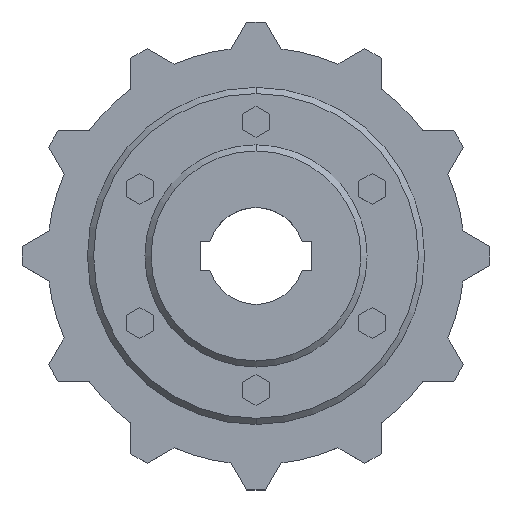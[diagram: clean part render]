
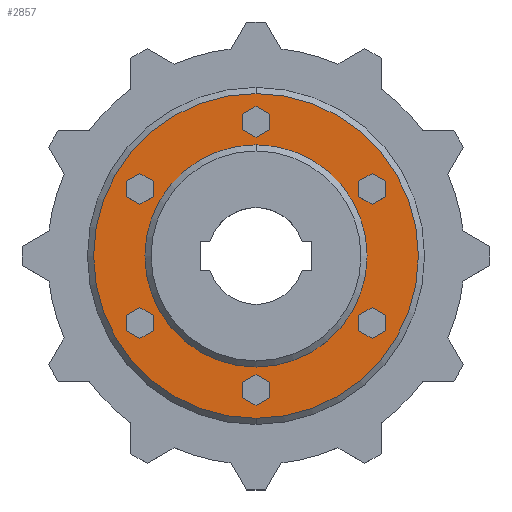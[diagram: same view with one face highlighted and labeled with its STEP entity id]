
A CAD part, top view. The second image highlights one B-rep face of the part: STEP entity #2857.
In plain terms, the highlighted planar face has unit normal (0, 0, 1) as drawn and (0, 1, 0) by its records, which use the part's own axes.
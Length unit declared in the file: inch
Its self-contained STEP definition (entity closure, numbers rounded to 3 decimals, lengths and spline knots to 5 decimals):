
#2353=CARTESIAN_POINT('',(0.,0.095,0.));
#2354=DIRECTION('',(0.,1.,0.));
#2355=DIRECTION('',(1.,0.,0.));
#2356=AXIS2_PLACEMENT_3D('',#2353,#2354,#2355);
#2363=CARTESIAN_POINT('',(0.,0.095,0.));
#2364=DIRECTION('',(0.,-1.,0.));
#2365=DIRECTION('',(1.,0.,0.));
#2366=AXIS2_PLACEMENT_3D('',#2363,#2364,#2365);
#2368=CARTESIAN_POINT('',(0.,0.095,0.));
#2369=DIRECTION('',(0.,-1.,0.));
#2370=DIRECTION('',(-1.,0.,0.));
#2371=AXIS2_PLACEMENT_3D('',#2368,#2369,#2370);
#2373=CARTESIAN_POINT('',(-2.188,0.095,0.));
#2374=DIRECTION('',(0.,-1.,0.));
#2375=DIRECTION('',(1.,0.,0.));
#2376=AXIS2_PLACEMENT_3D('',#2373,#2374,#2375);
#2378=CARTESIAN_POINT('',(-2.188,0.095,0.));
#2379=DIRECTION('',(0.,-1.,0.));
#2380=DIRECTION('',(-1.,0.,0.));
#2381=AXIS2_PLACEMENT_3D('',#2378,#2379,#2380);
#2383=CARTESIAN_POINT('',(-1.094,0.095,-1.89486));
#2384=DIRECTION('',(0.,-1.,0.));
#2385=DIRECTION('',(0.5,0.,0.866));
#2386=AXIS2_PLACEMENT_3D('',#2383,#2384,#2385);
#2388=CARTESIAN_POINT('',(-1.094,0.095,-1.89486));
#2389=DIRECTION('',(0.,-1.,0.));
#2390=DIRECTION('',(-0.5,0.,-0.866));
#2391=AXIS2_PLACEMENT_3D('',#2388,#2389,#2390);
#2393=CARTESIAN_POINT('',(1.094,0.095,-1.89486));
#2394=DIRECTION('',(0.,-1.,0.));
#2395=DIRECTION('',(-0.5,0.,0.866));
#2396=AXIS2_PLACEMENT_3D('',#2393,#2394,#2395);
#2398=CARTESIAN_POINT('',(1.094,0.095,-1.89486));
#2399=DIRECTION('',(0.,-1.,0.));
#2400=DIRECTION('',(0.5,0.,-0.866));
#2401=AXIS2_PLACEMENT_3D('',#2398,#2399,#2400);
#2403=CARTESIAN_POINT('',(2.188,0.095,0.));
#2404=DIRECTION('',(0.,-1.,0.));
#2405=DIRECTION('',(-1.,0.,0.));
#2406=AXIS2_PLACEMENT_3D('',#2403,#2404,#2405);
#2408=CARTESIAN_POINT('',(2.188,0.095,0.));
#2409=DIRECTION('',(0.,-1.,0.));
#2410=DIRECTION('',(1.,0.,0.));
#2411=AXIS2_PLACEMENT_3D('',#2408,#2409,#2410);
#2413=CARTESIAN_POINT('',(1.094,0.095,1.89486));
#2414=DIRECTION('',(0.,-1.,0.));
#2415=DIRECTION('',(-0.5,0.,-0.866));
#2416=AXIS2_PLACEMENT_3D('',#2413,#2414,#2415);
#2418=CARTESIAN_POINT('',(1.094,0.095,1.89486));
#2419=DIRECTION('',(0.,-1.,0.));
#2420=DIRECTION('',(0.5,0.,0.866));
#2421=AXIS2_PLACEMENT_3D('',#2418,#2419,#2420);
#2423=CARTESIAN_POINT('',(-1.094,0.095,1.89486));
#2424=DIRECTION('',(0.,-1.,0.));
#2425=DIRECTION('',(0.5,0.,-0.866));
#2426=AXIS2_PLACEMENT_3D('',#2423,#2424,#2425);
#2428=CARTESIAN_POINT('',(-1.094,0.095,1.89486));
#2429=DIRECTION('',(0.,-1.,0.));
#2430=DIRECTION('',(-0.5,0.,0.866));
#2431=AXIS2_PLACEMENT_3D('',#2428,#2429,#2430);
#2535=CARTESIAN_POINT('',(0.,0.095,0.));
#2536=DIRECTION('',(0.,1.,0.));
#2537=DIRECTION('',(-1.,0.,0.));
#2538=AXIS2_PLACEMENT_3D('',#2535,#2536,#2537);
#2609=CARTESIAN_POINT('',(1.813,0.095,0.));
#2610=CARTESIAN_POINT('',(-1.813,0.095,0.));
#2611=VERTEX_POINT('',#2609);
#2612=VERTEX_POINT('',#2610);
#2613=CARTESIAN_POINT('',(2.65,0.095,0.));
#2614=CARTESIAN_POINT('',(-2.65,0.095,0.));
#2615=VERTEX_POINT('',#2613);
#2616=VERTEX_POINT('',#2614);
#2625=CARTESIAN_POINT('',(-2.061,0.095,0.));
#2626=CARTESIAN_POINT('',(-2.315,0.095,0.));
#2627=VERTEX_POINT('',#2625);
#2628=VERTEX_POINT('',#2626);
#2657=CARTESIAN_POINT('',(-1.0305,0.095,-1.78488));
#2658=CARTESIAN_POINT('',(-1.1575,0.095,-2.00485));
#2659=VERTEX_POINT('',#2657);
#2660=VERTEX_POINT('',#2658);
#2661=CARTESIAN_POINT('',(1.0305,0.095,-1.78488));
#2662=CARTESIAN_POINT('',(1.1575,0.095,-2.00485));
#2663=VERTEX_POINT('',#2661);
#2664=VERTEX_POINT('',#2662);
#2665=CARTESIAN_POINT('',(2.061,0.095,0.));
#2666=CARTESIAN_POINT('',(2.315,0.095,0.));
#2667=VERTEX_POINT('',#2665);
#2668=VERTEX_POINT('',#2666);
#2669=CARTESIAN_POINT('',(1.0305,0.095,1.78488));
#2670=CARTESIAN_POINT('',(1.1575,0.095,2.00485));
#2671=VERTEX_POINT('',#2669);
#2672=VERTEX_POINT('',#2670);
#2673=CARTESIAN_POINT('',(-1.0305,0.095,1.78488));
#2674=CARTESIAN_POINT('',(-1.1575,0.095,2.00485));
#2675=VERTEX_POINT('',#2673);
#2676=VERTEX_POINT('',#2674);
#2805=CARTESIAN_POINT('',(0.,0.095,0.));
#2806=DIRECTION('',(0.,1.,0.));
#2807=DIRECTION('',(1.,0.,0.));
#2808=AXIS2_PLACEMENT_3D('',#2805,#2806,#2807);
#2809=PLANE('',#2808);
#2810=ORIENTED_EDGE('',*,*,#2795,.F.);
#2812=ORIENTED_EDGE('',*,*,#2811,.F.);
#2813=EDGE_LOOP('',(#2810,#2812));
#2814=FACE_OUTER_BOUND('',#2813,.F.);
#2816=ORIENTED_EDGE('',*,*,#2815,.F.);
#2818=ORIENTED_EDGE('',*,*,#2817,.F.);
#2819=EDGE_LOOP('',(#2816,#2818));
#2820=FACE_BOUND('',#2819,.F.);
#2822=ORIENTED_EDGE('',*,*,#2821,.F.);
#2824=ORIENTED_EDGE('',*,*,#2823,.F.);
#2825=EDGE_LOOP('',(#2822,#2824));
#2826=FACE_BOUND('',#2825,.F.);
#2828=ORIENTED_EDGE('',*,*,#2827,.F.);
#2830=ORIENTED_EDGE('',*,*,#2829,.F.);
#2831=EDGE_LOOP('',(#2828,#2830));
#2832=FACE_BOUND('',#2831,.F.);
#2834=ORIENTED_EDGE('',*,*,#2833,.F.);
#2836=ORIENTED_EDGE('',*,*,#2835,.F.);
#2837=EDGE_LOOP('',(#2834,#2836));
#2838=FACE_BOUND('',#2837,.F.);
#2840=ORIENTED_EDGE('',*,*,#2839,.F.);
#2842=ORIENTED_EDGE('',*,*,#2841,.F.);
#2843=EDGE_LOOP('',(#2840,#2842));
#2844=FACE_BOUND('',#2843,.F.);
#2846=ORIENTED_EDGE('',*,*,#2845,.F.);
#2848=ORIENTED_EDGE('',*,*,#2847,.F.);
#2849=EDGE_LOOP('',(#2846,#2848));
#2850=FACE_BOUND('',#2849,.F.);
#2852=ORIENTED_EDGE('',*,*,#2851,.F.);
#2854=ORIENTED_EDGE('',*,*,#2853,.F.);
#2855=EDGE_LOOP('',(#2852,#2854));
#2856=FACE_BOUND('',#2855,.F.);
#2857=ADVANCED_FACE('',(#2814,#2820,#2826,#2832,#2838,#2844,#2850,#2856),#2809,
.T.);
#2357=CIRCLE('',#2356,2.65);
#2367=CIRCLE('',#2366,1.813);
#2372=CIRCLE('',#2371,1.813);
#2377=CIRCLE('',#2376,0.127);
#2382=CIRCLE('',#2381,0.127);
#2387=CIRCLE('',#2386,0.127);
#2392=CIRCLE('',#2391,0.127);
#2397=CIRCLE('',#2396,0.127);
#2402=CIRCLE('',#2401,0.127);
#2407=CIRCLE('',#2406,0.127);
#2412=CIRCLE('',#2411,0.127);
#2417=CIRCLE('',#2416,0.127);
#2422=CIRCLE('',#2421,0.127);
#2427=CIRCLE('',#2426,0.127);
#2432=CIRCLE('',#2431,0.127);
#2539=CIRCLE('',#2538,2.65);
#2795=EDGE_CURVE('',#2615,#2616,#2357,.T.);
#2811=EDGE_CURVE('',#2616,#2615,#2539,.T.);
#2815=EDGE_CURVE('',#2611,#2612,#2367,.T.);
#2817=EDGE_CURVE('',#2612,#2611,#2372,.T.);
#2821=EDGE_CURVE('',#2627,#2628,#2377,.T.);
#2823=EDGE_CURVE('',#2628,#2627,#2382,.T.);
#2827=EDGE_CURVE('',#2659,#2660,#2387,.T.);
#2829=EDGE_CURVE('',#2660,#2659,#2392,.T.);
#2833=EDGE_CURVE('',#2663,#2664,#2397,.T.);
#2835=EDGE_CURVE('',#2664,#2663,#2402,.T.);
#2839=EDGE_CURVE('',#2667,#2668,#2407,.T.);
#2841=EDGE_CURVE('',#2668,#2667,#2412,.T.);
#2845=EDGE_CURVE('',#2671,#2672,#2417,.T.);
#2847=EDGE_CURVE('',#2672,#2671,#2422,.T.);
#2851=EDGE_CURVE('',#2675,#2676,#2427,.T.);
#2853=EDGE_CURVE('',#2676,#2675,#2432,.T.);
